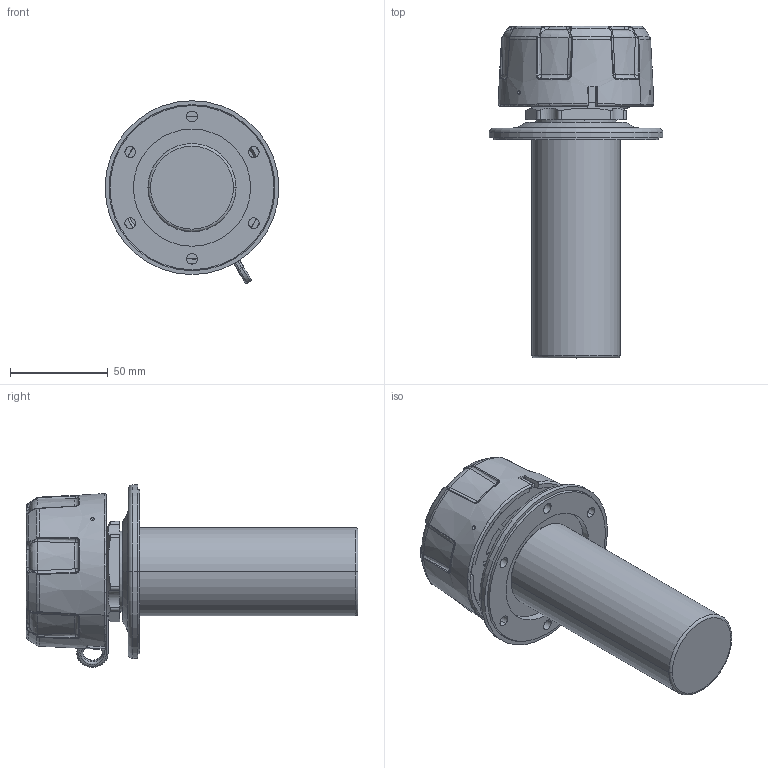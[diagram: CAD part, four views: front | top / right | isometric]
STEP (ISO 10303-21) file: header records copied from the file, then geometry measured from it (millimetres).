
FILE_DESCRIPTION((''),'2;1');
FILE_NAME('12465700_201931','2017-09-26T',('f.kollmann'),(''),'PRO/ENGINEER BY PARAMETRIC TECHNOLOGY CORPORATION, 2015110','PRO/ENGINEER BY PARAMETRIC TECHNOLOGY CORPORATION, 2015110','');
FILE_SCHEMA(('AUTOMOTIVE_DESIGN { 1 0 10303 214 1 1 1 1 }'));
Length unit declared in the file: millimetre
Products named in the file (1): 12465700_201931
Bounding box: 89 x 169.93 x 93.46 mm (x, y, z)
Volume: 411811 mm3; surface area: 54154.5 mm2
Topology: 1 solids, 1 shells, 620 faces, 1625 edges, 1011 vertices
Faces by surface type: bspline 201, cylinder 166, plane 138, cone 59, torus 42, sphere 14
Entity records: 32743 total; most frequent: CARTESIAN_POINT 13415, ORIENTED_EDGE 3242, DIRECTION 2187, PRESENTATION_STYLE_ASSIGNMENT 1659, STYLED_ITEM 1622, CURVE_STYLE 1621, EDGE_CURVE 1621, VERTEX_POINT 1010
